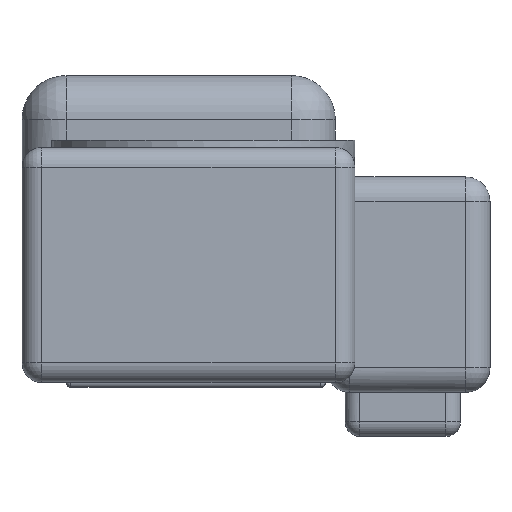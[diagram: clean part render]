
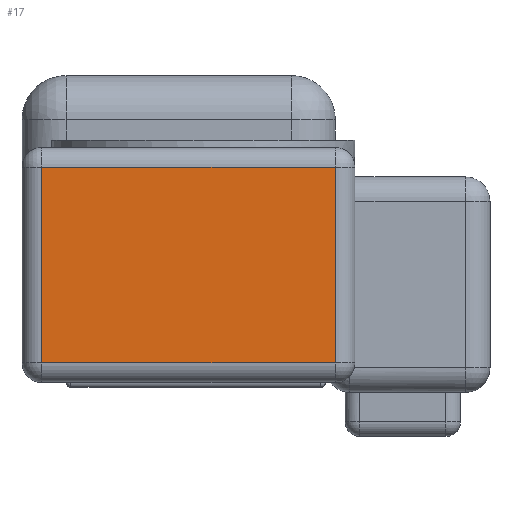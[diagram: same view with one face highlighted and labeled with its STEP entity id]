
A CAD part, left-side view. The second image highlights one B-rep face of the part: STEP entity #17.
In plain terms, the highlighted planar face has unit normal (-1, 0, 0).
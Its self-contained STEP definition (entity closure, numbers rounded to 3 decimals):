
#17 = ADVANCED_FACE('',(#18),#32,.F.);
#18 = FACE_BOUND('',#19,.F.);
#19 = EDGE_LOOP('',(#20,#55,#83,#111));
#20 = ORIENTED_EDGE('',*,*,#21,.F.);
#21 = EDGE_CURVE('',#22,#24,#26,.T.);
#22 = VERTEX_POINT('',#23);
#23 = CARTESIAN_POINT('',(-51.,-64.,-20.));
#24 = VERTEX_POINT('',#25);
#25 = CARTESIAN_POINT('',(-51.,-64.,20.));
#26 = SURFACE_CURVE('',#27,(#31,#43),.PCURVE_S1.);
#27 = LINE('',#28,#29);
#28 = CARTESIAN_POINT('',(-51.,-64.,-24.));
#29 = VECTOR('',#30,1.);
#30 = DIRECTION('',(0.,0.,1.));
#31 = PCURVE('',#32,#37);
#32 = PLANE('',#33);
#33 = AXIS2_PLACEMENT_3D('',#34,#35,#36);
#34 = CARTESIAN_POINT('',(-51.,-68.,-24.));
#35 = DIRECTION('',(1.,0.,0.));
#36 = DIRECTION('',(0.,0.,1.));
#37 = DEFINITIONAL_REPRESENTATION('',(#38),#42);
#38 = LINE('',#39,#40);
#39 = CARTESIAN_POINT('',(0.,-4.));
#40 = VECTOR('',#41,1.);
#41 = DIRECTION('',(1.,0.));
#42 = ( GEOMETRIC_REPRESENTATION_CONTEXT(2) 
PARAMETRIC_REPRESENTATION_CONTEXT() REPRESENTATION_CONTEXT('2D SPACE',''
  ) );
#43 = PCURVE('',#44,#49);
#44 = CYLINDRICAL_SURFACE('',#45,4.);
#45 = AXIS2_PLACEMENT_3D('',#46,#47,#48);
#46 = CARTESIAN_POINT('',(-47.,-64.,-24.));
#47 = DIRECTION('',(0.,0.,1.));
#48 = DIRECTION('',(-1.,-0.,0.));
#49 = DEFINITIONAL_REPRESENTATION('',(#50),#54);
#50 = LINE('',#51,#52);
#51 = CARTESIAN_POINT('',(0.,0.));
#52 = VECTOR('',#53,1.);
#53 = DIRECTION('',(0.,1.));
#54 = ( GEOMETRIC_REPRESENTATION_CONTEXT(2) 
PARAMETRIC_REPRESENTATION_CONTEXT() REPRESENTATION_CONTEXT('2D SPACE',''
  ) );
#55 = ORIENTED_EDGE('',*,*,#56,.T.);
#56 = EDGE_CURVE('',#22,#57,#59,.T.);
#57 = VERTEX_POINT('',#58);
#58 = CARTESIAN_POINT('',(-51.,-4.,-20.));
#59 = SURFACE_CURVE('',#60,(#64,#71),.PCURVE_S1.);
#60 = LINE('',#61,#62);
#61 = CARTESIAN_POINT('',(-51.,-68.,-20.));
#62 = VECTOR('',#63,1.);
#63 = DIRECTION('',(0.,1.,0.));
#64 = PCURVE('',#32,#65);
#65 = DEFINITIONAL_REPRESENTATION('',(#66),#70);
#66 = LINE('',#67,#68);
#67 = CARTESIAN_POINT('',(4.,0.));
#68 = VECTOR('',#69,1.);
#69 = DIRECTION('',(0.,-1.));
#70 = ( GEOMETRIC_REPRESENTATION_CONTEXT(2) 
PARAMETRIC_REPRESENTATION_CONTEXT() REPRESENTATION_CONTEXT('2D SPACE',''
  ) );
#71 = PCURVE('',#72,#77);
#72 = CYLINDRICAL_SURFACE('',#73,4.);
#73 = AXIS2_PLACEMENT_3D('',#74,#75,#76);
#74 = CARTESIAN_POINT('',(-47.,-68.,-20.));
#75 = DIRECTION('',(0.,1.,0.));
#76 = DIRECTION('',(-1.,0.,0.));
#77 = DEFINITIONAL_REPRESENTATION('',(#78),#82);
#78 = LINE('',#79,#80);
#79 = CARTESIAN_POINT('',(-0.,0.));
#80 = VECTOR('',#81,1.);
#81 = DIRECTION('',(-0.,1.));
#82 = ( GEOMETRIC_REPRESENTATION_CONTEXT(2) 
PARAMETRIC_REPRESENTATION_CONTEXT() REPRESENTATION_CONTEXT('2D SPACE',''
  ) );
#83 = ORIENTED_EDGE('',*,*,#84,.T.);
#84 = EDGE_CURVE('',#57,#85,#87,.T.);
#85 = VERTEX_POINT('',#86);
#86 = CARTESIAN_POINT('',(-51.,-4.,20.));
#87 = SURFACE_CURVE('',#88,(#92,#99),.PCURVE_S1.);
#88 = LINE('',#89,#90);
#89 = CARTESIAN_POINT('',(-51.,-4.,-24.));
#90 = VECTOR('',#91,1.);
#91 = DIRECTION('',(0.,0.,1.));
#92 = PCURVE('',#32,#93);
#93 = DEFINITIONAL_REPRESENTATION('',(#94),#98);
#94 = LINE('',#95,#96);
#95 = CARTESIAN_POINT('',(0.,-64.));
#96 = VECTOR('',#97,1.);
#97 = DIRECTION('',(1.,0.));
#98 = ( GEOMETRIC_REPRESENTATION_CONTEXT(2) 
PARAMETRIC_REPRESENTATION_CONTEXT() REPRESENTATION_CONTEXT('2D SPACE',''
  ) );
#99 = PCURVE('',#100,#105);
#100 = CYLINDRICAL_SURFACE('',#101,4.);
#101 = AXIS2_PLACEMENT_3D('',#102,#103,#104);
#102 = CARTESIAN_POINT('',(-47.,-4.,-24.));
#103 = DIRECTION('',(0.,0.,1.));
#104 = DIRECTION('',(-1.,-0.,0.));
#105 = DEFINITIONAL_REPRESENTATION('',(#106),#110);
#106 = LINE('',#107,#108);
#107 = CARTESIAN_POINT('',(-0.,0.));
#108 = VECTOR('',#109,1.);
#109 = DIRECTION('',(-0.,1.));
#110 = ( GEOMETRIC_REPRESENTATION_CONTEXT(2) 
PARAMETRIC_REPRESENTATION_CONTEXT() REPRESENTATION_CONTEXT('2D SPACE',''
  ) );
#111 = ORIENTED_EDGE('',*,*,#112,.F.);
#112 = EDGE_CURVE('',#24,#85,#113,.T.);
#113 = SURFACE_CURVE('',#114,(#118,#125),.PCURVE_S1.);
#114 = LINE('',#115,#116);
#115 = CARTESIAN_POINT('',(-51.,-68.,20.));
#116 = VECTOR('',#117,1.);
#117 = DIRECTION('',(0.,1.,0.));
#118 = PCURVE('',#32,#119);
#119 = DEFINITIONAL_REPRESENTATION('',(#120),#124);
#120 = LINE('',#121,#122);
#121 = CARTESIAN_POINT('',(44.,0.));
#122 = VECTOR('',#123,1.);
#123 = DIRECTION('',(0.,-1.));
#124 = ( GEOMETRIC_REPRESENTATION_CONTEXT(2) 
PARAMETRIC_REPRESENTATION_CONTEXT() REPRESENTATION_CONTEXT('2D SPACE',''
  ) );
#125 = PCURVE('',#126,#131);
#126 = CYLINDRICAL_SURFACE('',#127,4.);
#127 = AXIS2_PLACEMENT_3D('',#128,#129,#130);
#128 = CARTESIAN_POINT('',(-47.,-68.,20.));
#129 = DIRECTION('',(0.,1.,0.));
#130 = DIRECTION('',(-1.,0.,0.));
#131 = DEFINITIONAL_REPRESENTATION('',(#132),#136);
#132 = LINE('',#133,#134);
#133 = CARTESIAN_POINT('',(0.,0.));
#134 = VECTOR('',#135,1.);
#135 = DIRECTION('',(0.,1.));
#136 = ( GEOMETRIC_REPRESENTATION_CONTEXT(2) 
PARAMETRIC_REPRESENTATION_CONTEXT() REPRESENTATION_CONTEXT('2D SPACE',''
  ) );
